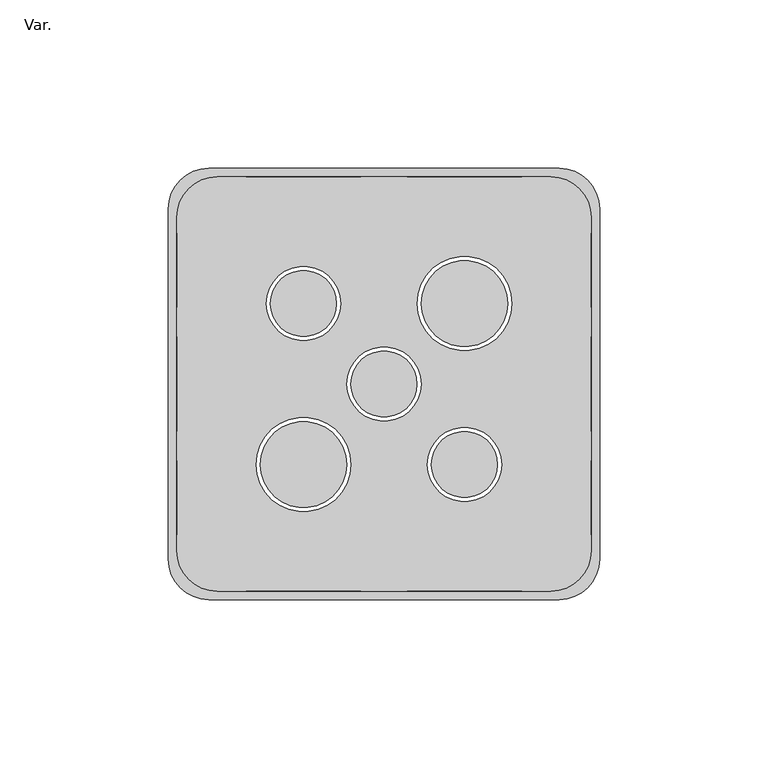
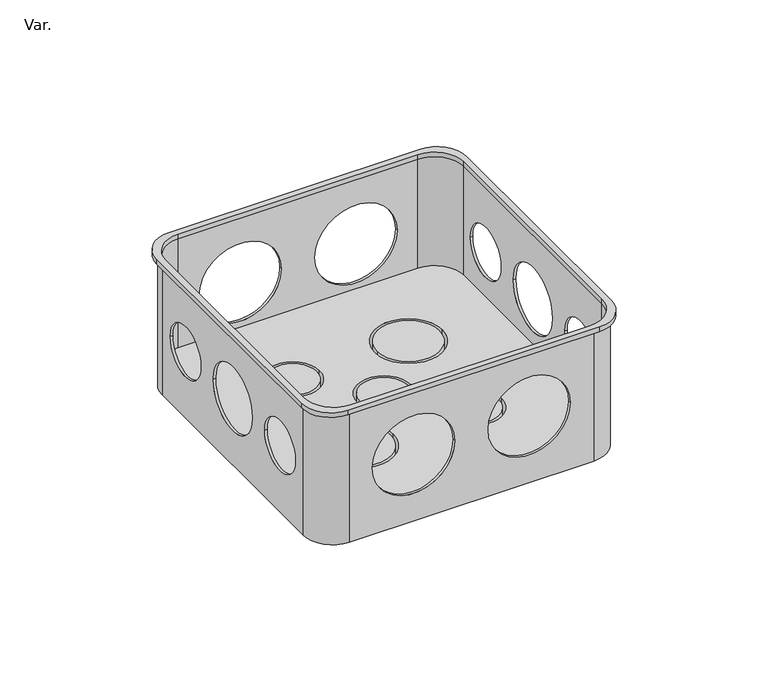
"""IFC4 building model written with IfcOpenShell, lengths in millimetres: cable carrier fitting geometry, PlastigamaWavin_Unionesdetubo_ConduitZNoUsarCaja5x5 : Var.."""

from ifc_helpers import new_model, si_unit, point, frame, frame_2d, origin, place, context, project, spatial, polyline, circle_curve, trimmed, segment, composite_curve, outline, extrude, source, transform, mapped, element, save
from ifc_brep_helpers import plane_surface, cylinder_surface, revolved_surface, advanced_brep


def var_d9d88811(model_context):
    return source(origin(), model_context, "Body", "SolidModel", [
        extrude(outline(composite_curve([segment(polyline([(-64.0, -52.0), (-64.0, 52.0)]), True, "CONTINUOUS"), segment(trimmed(circle_curve(frame_2d((-52.0, 52.0)), 12.0), [point((-64.0, 52.0))], [point((-52.0, 64.0))], False, "CARTESIAN"), True, "CONTINUOUS"), segment(polyline([(-52.0, 64.0), (52.0, 64.0)]), True, "CONTINUOUS"), segment(trimmed(circle_curve(frame_2d((52.0, 52.0)), 12.0), [point((52.0, 64.0))], [point((64.0, 52.0))], False, "CARTESIAN"), True, "CONTINUOUS"), segment(polyline([(64.0, 52.0), (64.0, -52.0)]), True, "CONTINUOUS"), segment(trimmed(circle_curve(frame_2d((52.0, -52.0)), 12.0), [point((64.0, -52.0))], [point((52.0, -64.0))], False, "CARTESIAN"), True, "CONTINUOUS"), segment(polyline([(52.0, -64.0), (-52.0, -64.0)]), True, "CONTINUOUS"), segment(trimmed(circle_curve(frame_2d((-52.0, -52.0)), 12.0), [point((-52.0, -64.0))], [point((-64.0, -52.0))], False, "CARTESIAN"), True, "CONTINUOUS")], self_intersect=False), holes=[composite_curve([segment(trimmed(circle_curve(frame_2d((-49.5, -49.5)), 12.0), [point((-61.5, -49.5))], [point((-49.5, -61.5))], True, "CARTESIAN"), True, "CONTINUOUS"), segment(polyline([(-49.5, -61.5), (49.5, -61.5)]), True, "CONTINUOUS"), segment(trimmed(circle_curve(frame_2d((49.5, -49.5)), 12.0), [point((49.5, -61.5))], [point((61.5, -49.5))], True, "CARTESIAN"), True, "CONTINUOUS"), segment(polyline([(61.5, -49.5), (61.5, 49.5)]), True, "CONTINUOUS"), segment(trimmed(circle_curve(frame_2d((49.5, 49.5)), 12.0), [point((61.5, 49.5))], [point((49.5, 61.5))], True, "CARTESIAN"), True, "CONTINUOUS"), segment(polyline([(49.5, 61.5), (-49.5, 61.5)]), True, "CONTINUOUS"), segment(trimmed(circle_curve(frame_2d((-49.5, 49.5)), 12.0), [point((-49.5, 61.5))], [point((-61.5, 49.5))], True, "CARTESIAN"), True, "CONTINUOUS"), segment(polyline([(-61.5, 49.5), (-61.5, -49.5)]), True, "CONTINUOUS")], self_intersect=False)]), frame((0.0, 0.0, 28.5), z_axis=(0.0, 0.0, 1.0), x_axis=(1.0, 0.0, 0.0)), (0.0, 0.0, 1.0), 2.0),
        advanced_brep(
        [(-62.5, -50.5, 28.5), (-50.5, -62.5, 28.5), (50.5, -62.5, 28.5), (62.5, -50.5, 28.5), (62.5, 50.5, 28.5), (50.5, 62.5, 28.5), (-50.5, 62.5, 28.5), (-62.5, 50.5, 28.5), (-49.5, -61.5, 28.5), (-61.5, -49.5, 28.5), (-61.5, 49.5, 28.5), (-49.5, 61.5, 28.5), (49.5, 61.5, 28.5), (61.5, 49.5, 28.5), (61.5, -49.5, 28.5), (49.5, -61.5, 28.5), (-62.5, -50.5, -28.5), (-62.5, 50.5, -28.5), (-50.5, 62.5, -28.5), (50.5, 62.5, -28.5), (62.5, 50.5, -28.5), (62.5, -50.5, -28.5), (50.5, -62.5, -28.5), (-50.5, -62.5, -28.5), (-37.9, -23.9, -28.5), (-9.9, -23.9, -28.5), (12.9, -23.9, -28.5), (34.9, -23.9, -28.5), (9.9, 23.9, -28.5), (37.9, 23.9, -28.5), (-34.9, 23.9, -28.5), (-12.9, 23.9, -28.5), (-11.0, 0.0, -28.5), (11.0, 0.0, -28.5), (-6.9, -62.5, 0.5), (-40.9, -62.5, 0.5), (40.9, -62.5, 0.5), (6.9, -62.5, 0.5), (62.5, -22.8, 0.5), (62.5, -44.8, 0.5), (62.5, 14.0, 0.5), (62.5, -14.0, 0.5), (62.5, 44.8, 0.5), (62.5, 22.8, 0.5), (-40.9, 62.5, 0.5), (-6.9, 62.5, 0.5), (6.9, 62.5, 0.5), (40.9, 62.5, 0.5), (-62.5, -44.8, 0.5), (-62.5, -22.8, 0.5), (-62.5, -14.0, 0.5), (-62.5, 14.0, 0.5), (-62.5, 22.8, 0.5), (-62.5, 44.8, 0.5), (-61.5, -49.5, -19.0915141), (-49.5, -61.5, -19.0915141), (49.5, -61.5, -19.0915141), (61.5, -49.5, -19.0915141), (61.5, 49.5, -19.0915141), (49.5, 61.5, -19.0915141), (-49.5, 61.5, -19.0915141), (-61.5, 49.5, -19.0915141), (-9.9, -23.9, -19.0915141), (-37.9, -23.9, -19.0915141), (34.9, -23.9, -19.0915141), (12.9, -23.9, -19.0915141), (37.9, 23.9, -19.0915141), (9.9, 23.9, -19.0915141), (-12.9, 23.9, -19.0915141), (-34.9, 23.9, -19.0915141), (11.0, 0.0, -19.0915141), (-11.0, 0.0, -19.0915141), (-40.9, -61.5, 0.5), (-6.9, -61.5, 0.5), (6.9, -61.5, 0.5), (40.9, -61.5, 0.5), (61.5, -44.8, 0.5), (61.5, -22.8, 0.5), (61.5, -14.0, 0.5), (61.5, 14.0, 0.5), (61.5, 22.8, 0.5), (61.5, 44.8, 0.5), (-6.9, 61.5, 0.5), (-40.9, 61.5, 0.5), (40.9, 61.5, 0.5), (6.9, 61.5, 0.5), (-61.5, -22.8, 0.5), (-61.5, -44.8, 0.5), (-61.5, 14.0, 0.5), (-61.5, -14.0, 0.5), (-61.5, 44.8, 0.5), (-61.5, 22.8, 0.5)],
        [
            (0, 1, circle_curve(frame((-50.5, -50.5, 28.5), z_axis=(0.0, 0.0, 1.0), x_axis=(1.0, 0.0, 0.0)), 12.0)),
            (1, 2),
            (2, 3, circle_curve(frame((50.5, -50.5, 28.5), z_axis=(0.0, 0.0, 1.0), x_axis=(1.0, 0.0, 0.0)), 12.0)),
            (3, 4),
            (4, 5, circle_curve(frame((50.5, 50.5, 28.5), z_axis=(0.0, 0.0, 1.0), x_axis=(1.0, 0.0, 0.0)), 12.0)),
            (5, 6),
            (6, 7, circle_curve(frame((-50.5, 50.5, 28.5), z_axis=(0.0, 0.0, 1.0), x_axis=(1.0, 0.0, 0.0)), 12.0)),
            (7, 0),
            (8, 9, circle_curve(frame((-49.5, -49.5, 28.5), z_axis=(0.0, 0.0, -1.0), x_axis=(1.0, 0.0, 0.0)), 12.0)),
            (9, 10),
            (10, 11, circle_curve(frame((-49.5, 49.5, 28.5), z_axis=(0.0, 0.0, -1.0), x_axis=(1.0, 0.0, 0.0)), 12.0)),
            (11, 12),
            (12, 13, circle_curve(frame((49.5, 49.5, 28.5), z_axis=(0.0, 0.0, -1.0), x_axis=(1.0, 0.0, 0.0)), 12.0)),
            (13, 14),
            (14, 15, circle_curve(frame((49.5, -49.5, 28.5), z_axis=(0.0, 0.0, -1.0), x_axis=(1.0, 0.0, 0.0)), 12.0)),
            (15, 8),
            (16, 17),
            (17, 18, circle_curve(frame((-50.5, 50.5, -28.5), z_axis=(0.0, 0.0, -1.0), x_axis=(1.0, 0.0, 0.0)), 12.0)),
            (18, 19),
            (19, 20, circle_curve(frame((50.5, 50.5, -28.5), z_axis=(0.0, 0.0, -1.0), x_axis=(1.0, 0.0, 0.0)), 12.0)),
            (20, 21),
            (21, 22, circle_curve(frame((50.5, -50.5, -28.5), z_axis=(0.0, 0.0, -1.0), x_axis=(1.0, 0.0, 0.0)), 12.0)),
            (22, 23),
            (23, 16, circle_curve(frame((-50.5, -50.5, -28.5), z_axis=(0.0, 0.0, -1.0), x_axis=(1.0, 0.0, 0.0)), 12.0)),
            (24, 25, circle_curve(frame((-23.9, -23.9, -28.5), z_axis=(0.0, 0.0, 1.0), x_axis=(1.0, 0.0, 0.0)), 14.0)),
            (25, 24, circle_curve(frame((-23.9, -23.9, -28.5), z_axis=(0.0, 0.0, 1.0), x_axis=(1.0, 0.0, 0.0)), 14.0)),
            (26, 27, circle_curve(frame((23.9, -23.9, -28.5), z_axis=(0.0, 0.0, 1.0), x_axis=(1.0, 0.0, 0.0)), 11.0)),
            (27, 26, circle_curve(frame((23.9, -23.9, -28.5), z_axis=(0.0, 0.0, 1.0), x_axis=(1.0, 0.0, 0.0)), 11.0)),
            (28, 29, circle_curve(frame((23.9, 23.9, -28.5), z_axis=(0.0, 0.0, 1.0), x_axis=(1.0, 0.0, 0.0)), 14.0)),
            (29, 28, circle_curve(frame((23.9, 23.9, -28.5), z_axis=(0.0, 0.0, 1.0), x_axis=(1.0, 0.0, 0.0)), 14.0)),
            (30, 31, circle_curve(frame((-23.9, 23.9, -28.5), z_axis=(0.0, 0.0, 1.0), x_axis=(1.0, 0.0, 0.0)), 11.0)),
            (31, 30, circle_curve(frame((-23.9, 23.9, -28.5), z_axis=(0.0, 0.0, 1.0), x_axis=(1.0, 0.0, 0.0)), 11.0)),
            (32, 33, circle_curve(frame((0.0, 0.0, -28.5), z_axis=(0.0, 0.0, 1.0), x_axis=(1.0, 0.0, 0.0)), 11.0)),
            (33, 32, circle_curve(frame((0.0, 0.0, -28.5), z_axis=(0.0, 0.0, 1.0), x_axis=(1.0, 0.0, 0.0)), 11.0)),
            (0, 16),
            (23, 1),
            (22, 2),
            (34, 35, circle_curve(frame((-23.9, -62.5, 0.5), z_axis=(0.0, 1.0, 0.0), x_axis=(1.0, 0.0, 0.0)), 17.0)),
            (35, 34, circle_curve(frame((-23.9, -62.5, 0.5), z_axis=(0.0, 1.0, 0.0), x_axis=(1.0, 0.0, 0.0)), 17.0)),
            (36, 37, circle_curve(frame((23.9, -62.5, 0.5), z_axis=(0.0, 1.0, 0.0), x_axis=(1.0, 0.0, 0.0)), 17.0)),
            (37, 36, circle_curve(frame((23.9, -62.5, 0.5), z_axis=(0.0, 1.0, 0.0), x_axis=(1.0, 0.0, 0.0)), 17.0)),
            (21, 3),
            (20, 4),
            (38, 39, circle_curve(frame((62.5, -33.8, 0.5), z_axis=(-1.0, 0.0, 0.0), x_axis=(0.0, 1.0, 0.0)), 11.0)),
            (39, 38, circle_curve(frame((62.5, -33.8, 0.5), z_axis=(-1.0, 0.0, 0.0), x_axis=(0.0, 1.0, 0.0)), 11.0)),
            (40, 41, circle_curve(frame((62.5, 0.0, 0.5), z_axis=(-1.0, 0.0, 0.0), x_axis=(0.0, 1.0, 0.0)), 14.0)),
            (41, 40, circle_curve(frame((62.5, 0.0, 0.5), z_axis=(-1.0, 0.0, 0.0), x_axis=(0.0, 1.0, 0.0)), 14.0)),
            (42, 43, circle_curve(frame((62.5, 33.8, 0.5), z_axis=(-1.0, 0.0, 0.0), x_axis=(0.0, 1.0, 0.0)), 11.0)),
            (43, 42, circle_curve(frame((62.5, 33.8, 0.5), z_axis=(-1.0, 0.0, 0.0), x_axis=(0.0, 1.0, 0.0)), 11.0)),
            (19, 5),
            (18, 6),
            (44, 45, circle_curve(frame((-23.9, 62.5, 0.5), z_axis=(0.0, -1.0, 0.0), x_axis=(1.0, 0.0, 0.0)), 17.0)),
            (45, 44, circle_curve(frame((-23.9, 62.5, 0.5), z_axis=(0.0, -1.0, 0.0), x_axis=(1.0, 0.0, 0.0)), 17.0)),
            (46, 47, circle_curve(frame((23.9, 62.5, 0.5), z_axis=(0.0, -1.0, 0.0), x_axis=(1.0, 0.0, 0.0)), 17.0)),
            (47, 46, circle_curve(frame((23.9, 62.5, 0.5), z_axis=(0.0, -1.0, 0.0), x_axis=(1.0, 0.0, 0.0)), 17.0)),
            (17, 7),
            (48, 49, circle_curve(frame((-62.5, -33.8, 0.5), z_axis=(1.0, 0.0, 0.0), x_axis=(0.0, 1.0, 0.0)), 11.0)),
            (49, 48, circle_curve(frame((-62.5, -33.8, 0.5), z_axis=(1.0, 0.0, 0.0), x_axis=(0.0, 1.0, 0.0)), 11.0)),
            (50, 51, circle_curve(frame((-62.5, 0.0, 0.5), z_axis=(1.0, 0.0, 0.0), x_axis=(0.0, 1.0, 0.0)), 14.0)),
            (51, 50, circle_curve(frame((-62.5, 0.0, 0.5), z_axis=(1.0, 0.0, 0.0), x_axis=(0.0, 1.0, 0.0)), 14.0)),
            (52, 53, circle_curve(frame((-62.5, 33.8, 0.5), z_axis=(1.0, 0.0, 0.0), x_axis=(0.0, 1.0, 0.0)), 11.0)),
            (53, 52, circle_curve(frame((-62.5, 33.8, 0.5), z_axis=(1.0, 0.0, 0.0), x_axis=(0.0, 1.0, 0.0)), 11.0)),
            (54, 55, circle_curve(frame((-49.5, -49.5, -19.0915141), z_axis=(0.0, 0.0, 1.0), x_axis=(1.0, 0.0, 0.0)), 12.0)),
            (55, 56),
            (56, 57, circle_curve(frame((49.5, -49.5, -19.0915141), z_axis=(0.0, 0.0, 1.0), x_axis=(1.0, 0.0, 0.0)), 12.0)),
            (57, 58),
            (58, 59, circle_curve(frame((49.5, 49.5, -19.0915141), z_axis=(0.0, 0.0, 1.0), x_axis=(1.0, 0.0, 0.0)), 12.0)),
            (59, 60),
            (60, 61, circle_curve(frame((-49.5, 49.5, -19.0915141), z_axis=(0.0, 0.0, 1.0), x_axis=(1.0, 0.0, 0.0)), 12.0)),
            (61, 54),
            (62, 63, circle_curve(frame((-23.9, -23.9, -19.0915141), z_axis=(0.0, 0.0, -1.0), x_axis=(1.0, 0.0, 0.0)), 14.0)),
            (63, 62, circle_curve(frame((-23.9, -23.9, -19.0915141), z_axis=(0.0, 0.0, -1.0), x_axis=(1.0, 0.0, 0.0)), 14.0)),
            (64, 65, circle_curve(frame((23.9, -23.9, -19.0915141), z_axis=(0.0, 0.0, -1.0), x_axis=(1.0, 0.0, 0.0)), 11.0)),
            (65, 64, circle_curve(frame((23.9, -23.9, -19.0915141), z_axis=(0.0, 0.0, -1.0), x_axis=(1.0, 0.0, 0.0)), 11.0)),
            (66, 67, circle_curve(frame((23.9, 23.9, -19.0915141), z_axis=(0.0, 0.0, -1.0), x_axis=(1.0, 0.0, 0.0)), 14.0)),
            (67, 66, circle_curve(frame((23.9, 23.9, -19.0915141), z_axis=(0.0, 0.0, -1.0), x_axis=(1.0, 0.0, 0.0)), 14.0)),
            (68, 69, circle_curve(frame((-23.9, 23.9, -19.0915141), z_axis=(0.0, 0.0, -1.0), x_axis=(1.0, 0.0, 0.0)), 11.0)),
            (69, 68, circle_curve(frame((-23.9, 23.9, -19.0915141), z_axis=(0.0, 0.0, -1.0), x_axis=(1.0, 0.0, 0.0)), 11.0)),
            (70, 71, circle_curve(frame((0.0, 0.0, -19.0915141), z_axis=(0.0, 0.0, -1.0), x_axis=(1.0, 0.0, 0.0)), 11.0)),
            (71, 70, circle_curve(frame((0.0, 0.0, -19.0915141), z_axis=(0.0, 0.0, -1.0), x_axis=(1.0, 0.0, 0.0)), 11.0)),
            (54, 9),
            (8, 55),
            (15, 56),
            (72, 73, circle_curve(frame((-23.9, -61.5, 0.5), z_axis=(0.0, -1.0, 0.0), x_axis=(1.0, 0.0, 0.0)), 17.0)),
            (73, 72, circle_curve(frame((-23.9, -61.5, 0.5), z_axis=(0.0, -1.0, 0.0), x_axis=(1.0, 0.0, 0.0)), 17.0)),
            (74, 75, circle_curve(frame((23.9, -61.5, 0.5), z_axis=(0.0, -1.0, 0.0), x_axis=(1.0, 0.0, 0.0)), 17.0)),
            (75, 74, circle_curve(frame((23.9, -61.5, 0.5), z_axis=(0.0, -1.0, 0.0), x_axis=(1.0, 0.0, 0.0)), 17.0)),
            (14, 57),
            (13, 58),
            (76, 77, circle_curve(frame((61.5, -33.8, 0.5), z_axis=(1.0, 0.0, 0.0), x_axis=(0.0, 1.0, 0.0)), 11.0)),
            (77, 76, circle_curve(frame((61.5, -33.8, 0.5), z_axis=(1.0, 0.0, 0.0), x_axis=(0.0, 1.0, 0.0)), 11.0)),
            (78, 79, circle_curve(frame((61.5, 0.0, 0.5), z_axis=(1.0, 0.0, 0.0), x_axis=(0.0, 1.0, 0.0)), 14.0)),
            (79, 78, circle_curve(frame((61.5, 0.0, 0.5), z_axis=(1.0, 0.0, 0.0), x_axis=(0.0, 1.0, 0.0)), 14.0)),
            (80, 81, circle_curve(frame((61.5, 33.8, 0.5), z_axis=(1.0, 0.0, 0.0), x_axis=(0.0, 1.0, 0.0)), 11.0)),
            (81, 80, circle_curve(frame((61.5, 33.8, 0.5), z_axis=(1.0, 0.0, 0.0), x_axis=(0.0, 1.0, 0.0)), 11.0)),
            (12, 59),
            (11, 60),
            (82, 83, circle_curve(frame((-23.9, 61.5, 0.5), z_axis=(0.0, 1.0, 0.0), x_axis=(1.0, 0.0, 0.0)), 17.0)),
            (83, 82, circle_curve(frame((-23.9, 61.5, 0.5), z_axis=(0.0, 1.0, 0.0), x_axis=(1.0, 0.0, 0.0)), 17.0)),
            (84, 85, circle_curve(frame((23.9, 61.5, 0.5), z_axis=(0.0, 1.0, 0.0), x_axis=(1.0, 0.0, 0.0)), 17.0)),
            (85, 84, circle_curve(frame((23.9, 61.5, 0.5), z_axis=(0.0, 1.0, 0.0), x_axis=(1.0, 0.0, 0.0)), 17.0)),
            (10, 61),
            (86, 87, circle_curve(frame((-61.5, -33.8, 0.5), z_axis=(-1.0, 0.0, 0.0), x_axis=(0.0, 1.0, 0.0)), 11.0)),
            (87, 86, circle_curve(frame((-61.5, -33.8, 0.5), z_axis=(-1.0, 0.0, 0.0), x_axis=(0.0, 1.0, 0.0)), 11.0)),
            (88, 89, circle_curve(frame((-61.5, 0.0, 0.5), z_axis=(-1.0, 0.0, 0.0), x_axis=(0.0, 1.0, 0.0)), 14.0)),
            (89, 88, circle_curve(frame((-61.5, 0.0, 0.5), z_axis=(-1.0, 0.0, 0.0), x_axis=(0.0, 1.0, 0.0)), 14.0)),
            (90, 91, circle_curve(frame((-61.5, 33.8, 0.5), z_axis=(-1.0, 0.0, 0.0), x_axis=(0.0, 1.0, 0.0)), 11.0)),
            (91, 90, circle_curve(frame((-61.5, 33.8, 0.5), z_axis=(-1.0, 0.0, 0.0), x_axis=(0.0, 1.0, 0.0)), 11.0)),
            (72, 35),
            (34, 73),
            (44, 83),
            (82, 45),
            (74, 37),
            (36, 75),
            (46, 85),
            (84, 47),
            (76, 39),
            (38, 77),
            (48, 87),
            (86, 49),
            (78, 41),
            (40, 79),
            (50, 89),
            (88, 51),
            (80, 43),
            (42, 81),
            (52, 91),
            (90, 53),
            (24, 63),
            (62, 25),
            (26, 65),
            (64, 27),
            (28, 67),
            (66, 29),
            (30, 69),
            (68, 31),
            (32, 71),
            (70, 33),
        ],
        [
            plane_surface(frame((-38.5, -50.5, 28.5), z_axis=(0.0, 0.0, 1.0), x_axis=(0.0, 1.0, 0.0))),
            plane_surface(frame((-38.5, -50.5, -28.5), z_axis=(0.0, 0.0, -1.0), x_axis=(0.0, -1.0, 0.0))),
            cylinder_surface(frame((-50.5, -50.5, -28.5), z_axis=(0.0, 0.0, 1.0), x_axis=(1.0, 0.0, 0.0)), 12.0),
            plane_surface(frame((-50.5, -62.5, 28.5), z_axis=(0.0, -1.0, 0.0), x_axis=(0.0, 0.0, -1.0))),
            cylinder_surface(frame((50.5, -50.5, -28.5), z_axis=(0.0, 0.0, 1.0), x_axis=(1.0, 0.0, 0.0)), 12.0),
            plane_surface(frame((62.5, -50.5, 28.5), z_axis=(1.0, 0.0, 0.0), x_axis=(0.0, 0.0, -1.0))),
            cylinder_surface(frame((50.5, 50.5, -28.5), z_axis=(0.0, 0.0, 1.0), x_axis=(1.0, 0.0, 0.0)), 12.0),
            plane_surface(frame((50.5, 62.5, 28.5), z_axis=(0.0, 1.0, 0.0), x_axis=(0.0, 0.0, -1.0))),
            cylinder_surface(frame((-50.5, 50.5, -28.5), z_axis=(0.0, 0.0, 1.0), x_axis=(1.0, 0.0, 0.0)), 12.0),
            plane_surface(frame((-62.5, 50.5, 28.5), z_axis=(-1.0, 0.0, 0.0), x_axis=(0.0, 0.0, -1.0))),
            plane_surface(frame((-37.5, -49.5, -19.0915141), z_axis=(0.0, 0.0, 1.0), x_axis=(0.0, -1.0, 0.0))),
            revolved_surface(polyline([(-37.5, -49.5, 28.499999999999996), (-37.5, -49.5, -19.0915141)]), (-49.5, -49.5, -19.0915141), (0.0, 0.0, 1.0)),
            plane_surface(frame((-49.5, -61.5, 30.5), z_axis=(0.0, 1.0, 0.0), x_axis=(0.0, 0.0, -1.0))),
            revolved_surface(polyline([(61.5, -49.5, 28.499999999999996), (61.5, -49.5, -19.0915141)]), (49.5, -49.5, -19.0915141), (0.0, 0.0, 1.0)),
            plane_surface(frame((61.5, -49.5, 30.5), z_axis=(-1.0, 0.0, 0.0), x_axis=(0.0, 0.0, -1.0))),
            revolved_surface(polyline([(61.5, 49.5, 28.499999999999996), (61.5, 49.5, -19.0915141)]), (49.5, 49.5, -19.0915141), (0.0, 0.0, 1.0)),
            plane_surface(frame((49.5, 61.5, 30.5), z_axis=(0.0, -1.0, 0.0), x_axis=(0.0, 0.0, -1.0))),
            revolved_surface(polyline([(-37.5, 49.5, 28.499999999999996), (-37.5, 49.5, -19.0915141)]), (-49.5, 49.5, -19.0915141), (0.0, 0.0, 1.0)),
            plane_surface(frame((-61.5, 49.5, 30.5), z_axis=(1.0, 0.0, 0.0), x_axis=(0.0, 0.0, -1.0))),
            revolved_surface(polyline([(-6.899999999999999, -62.5, 0.5), (-6.899999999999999, -61.5, 0.5)]), (-23.9, 62.5, 0.5), (0.0, -1.0, 0.0)),
            revolved_surface(polyline([(-6.899999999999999, 61.5, 0.5), (-6.899999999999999, 62.5, 0.5)]), (-23.9, 62.5, 0.5), (0.0, -1.0, 0.0)),
            revolved_surface(polyline([(40.9, -62.5, 0.5), (40.9, -61.5, 0.5)]), (23.9, 0.0, 0.5), (0.0, -1.0, 0.0)),
            revolved_surface(polyline([(40.9, 61.5, 0.5), (40.9, 62.5, 0.5)]), (23.9, 0.0, 0.5), (0.0, -1.0, 0.0)),
            revolved_surface(polyline([(62.5, -22.799999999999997, 0.5), (61.5, -22.799999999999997, 0.5)]), (-62.5, -33.8, 0.5), (1.0, 0.0, 0.0)),
            revolved_surface(polyline([(-61.5, -22.799999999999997, 0.5), (-62.5, -22.799999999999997, 0.5)]), (-62.5, -33.8, 0.5), (1.0, 0.0, 0.0)),
            revolved_surface(polyline([(62.5, 14.0, 0.5), (61.5, 14.0, 0.5)]), (0.0, 0.0, 0.5), (1.0, 0.0, 0.0)),
            revolved_surface(polyline([(-61.5, 14.0, 0.5), (-62.5, 14.0, 0.5)]), (0.0, 0.0, 0.5), (1.0, 0.0, 0.0)),
            revolved_surface(polyline([(62.5, 44.8, 0.5), (61.5, 44.8, 0.5)]), (0.0, 33.8, 0.5), (1.0, 0.0, 0.0)),
            revolved_surface(polyline([(-61.5, 44.8, 0.5), (-62.5, 44.8, 0.5)]), (0.0, 33.8, 0.5), (1.0, 0.0, 0.0)),
            revolved_surface(polyline([(-9.899999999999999, -23.9, -19.0915141), (-9.899999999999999, -23.9, -28.5)]), (-23.9, -23.9, 0.0), (0.0, 0.0, 1.0)),
            revolved_surface(polyline([(34.9, -23.9, -19.0915141), (34.9, -23.9, -28.5)]), (23.9, -23.9, 0.0), (0.0, 0.0, 1.0)),
            revolved_surface(polyline([(37.9, 23.9, -19.0915141), (37.9, 23.9, -28.5)]), (23.9, 23.9, 0.0), (0.0, 0.0, 1.0)),
            revolved_surface(polyline([(-12.899999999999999, 23.9, -19.0915141), (-12.899999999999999, 23.9, -28.5)]), (-23.9, 23.9, 0.0), (0.0, 0.0, 1.0)),
            revolved_surface(polyline([(11.0, 0.0, -19.0915141), (11.0, 0.0, -28.5)]), (0.0, 0.0, 0.0), (0.0, 0.0, 1.0)),
        ],
        [
            (0, [[1, 2, 3, 4, 5, 6, 7, 8], [9, 10, 11, 12, 13, 14, 15, 16]]),
            (1, [[17, 18, 19, 20, 21, 22, 23, 24], [25, 26], [27, 28], [29, 30], [31, 32], [33, 34]]),
            (2, [[-1, 35, -24, 36]]),
            (3, [[-2, -36, -23, 37], [38, 39], [40, 41]]),
            (4, [[-3, -37, -22, 42]]),
            (5, [[-4, -42, -21, 43], [44, 45], [46, 47], [48, 49]]),
            (6, [[-5, -43, -20, 50]]),
            (7, [[-6, -50, -19, 51], [52, 53], [54, 55]]),
            (8, [[-7, -51, -18, 56]]),
            (9, [[-8, -56, -17, -35], [57, 58], [59, 60], [61, 62]]),
            (10, [[63, 64, 65, 66, 67, 68, 69, 70], [71, 72], [73, 74], [75, 76], [77, 78], [79, 80]]),
            (11, [[-63, 81, -9, 82]]),
            (12, [[-64, -82, -16, 83], [84, 85], [86, 87]]),
            (13, [[-65, -83, -15, 88]]),
            (14, [[-66, -88, -14, 89], [90, 91], [92, 93], [94, 95]]),
            (15, [[-67, -89, -13, 96]]),
            (16, [[-68, -96, -12, 97], [98, 99], [100, 101]]),
            (17, [[-69, -97, -11, 102]]),
            (18, [[-70, -102, -10, -81], [103, 104], [105, 106], [107, 108]]),
            (19, [[109, -38, 110, -84]]),
            (20, [[111, -98, 112, -52]]),
            (19, [[-109, -85, -110, -39]]),
            (20, [[-111, -53, -112, -99]]),
            (21, [[113, -40, 114, -86]]),
            (22, [[115, -100, 116, -54]]),
            (21, [[-113, -87, -114, -41]]),
            (22, [[-115, -55, -116, -101]]),
            (23, [[117, -44, 118, -90]]),
            (24, [[119, -103, 120, -57]]),
            (23, [[-117, -91, -118, -45]]),
            (24, [[-119, -58, -120, -104]]),
            (25, [[121, -46, 122, -92]]),
            (26, [[123, -105, 124, -59]]),
            (25, [[-121, -93, -122, -47]]),
            (26, [[-123, -60, -124, -106]]),
            (27, [[125, -48, 126, -94]]),
            (28, [[127, -107, 128, -61]]),
            (27, [[-125, -95, -126, -49]]),
            (28, [[-127, -62, -128, -108]]),
            (29, [[129, -71, 130, -25]]),
            (29, [[-129, -26, -130, -72]]),
            (30, [[131, -73, 132, -27]]),
            (30, [[-131, -28, -132, -74]]),
            (31, [[133, -75, 134, -29]]),
            (31, [[-133, -30, -134, -76]]),
            (32, [[135, -77, 136, -31]]),
            (32, [[-135, -32, -136, -78]]),
            (33, [[137, -79, 138, -33]]),
            (33, [[-137, -34, -138, -80]]),
        ],
    ),
        advanced_brep(
        [(11.1, 23.9, -28.5), (36.7, 23.9, -28.5), (36.7, 23.9, -19.0915141), (11.1, 23.9, -19.0915141)],
        [
            (0, 1, circle_curve(frame((23.9, 23.9, -28.5), z_axis=(0.0, 0.0, -1.0), x_axis=(1.0, 0.0, 0.0)), 12.8)),
            (1, 0, circle_curve(frame((23.9, 23.9, -28.5), z_axis=(0.0, 0.0, -1.0), x_axis=(1.0, 0.0, 0.0)), 12.8)),
            (2, 3, circle_curve(frame((23.9, 23.9, -19.0915141), z_axis=(0.0, 0.0, 1.0), x_axis=(1.0, 0.0, 0.0)), 12.8)),
            (3, 2, circle_curve(frame((23.9, 23.9, -19.0915141), z_axis=(0.0, 0.0, 1.0), x_axis=(1.0, 0.0, 0.0)), 12.8)),
            (0, 3),
            (2, 1),
        ],
        [
            plane_surface(frame((-38.5, -50.5, -28.5), z_axis=(0.0, 0.0, -1.0), x_axis=(0.0, -1.0, 0.0))),
            plane_surface(frame((-37.5, -49.5, -19.0915141), z_axis=(0.0, 0.0, 1.0), x_axis=(0.0, -1.0, 0.0))),
            cylinder_surface(frame((23.9, 23.9, -28.5), z_axis=(0.0, 0.0, -1.0), x_axis=(1.0, 0.0, 0.0)), 12.8),
        ],
        [
            (0, [[1, 2]]),
            (1, [[3, 4]]),
            (2, [[5, -3, 6, -1]]),
            (2, [[-5, -2, -6, -4]]),
        ],
    ),
        advanced_brep(
        [(14.1, -23.9, -28.5), (33.7, -23.9, -28.5), (33.7, -23.9, -19.0915141), (14.1, -23.9, -19.0915141)],
        [
            (0, 1, circle_curve(frame((23.9, -23.9, -28.5), z_axis=(0.0, 0.0, -1.0), x_axis=(1.0, 0.0, 0.0)), 9.8)),
            (1, 0, circle_curve(frame((23.9, -23.9, -28.5), z_axis=(0.0, 0.0, -1.0), x_axis=(1.0, 0.0, 0.0)), 9.8)),
            (2, 3, circle_curve(frame((23.9, -23.9, -19.0915141), z_axis=(0.0, 0.0, 1.0), x_axis=(1.0, 0.0, 0.0)), 9.8)),
            (3, 2, circle_curve(frame((23.9, -23.9, -19.0915141), z_axis=(0.0, 0.0, 1.0), x_axis=(1.0, 0.0, 0.0)), 9.8)),
            (0, 3),
            (2, 1),
        ],
        [
            plane_surface(frame((-38.5, -50.5, -28.5), z_axis=(0.0, 0.0, -1.0), x_axis=(0.0, -1.0, 0.0))),
            plane_surface(frame((-37.5, -49.5, -19.0915141), z_axis=(0.0, 0.0, 1.0), x_axis=(0.0, -1.0, 0.0))),
            cylinder_surface(frame((23.9, -23.9, 0.0), z_axis=(0.0, 0.0, -1.0), x_axis=(1.0, 0.0, 0.0)), 9.8),
        ],
        [
            (0, [[1, 2]]),
            (1, [[3, 4]]),
            (2, [[5, -3, 6, -1]]),
            (2, [[-5, -2, -6, -4]]),
        ],
    ),
        advanced_brep(
        [(-36.7, -23.9, -28.5), (-11.1, -23.9, -28.5), (-11.1, -23.9, -19.0915141), (-36.7, -23.9, -19.0915141)],
        [
            (0, 1, circle_curve(frame((-23.9, -23.9, -28.5), z_axis=(0.0, 0.0, -1.0), x_axis=(1.0, 0.0, 0.0)), 12.8)),
            (1, 0, circle_curve(frame((-23.9, -23.9, -28.5), z_axis=(0.0, 0.0, -1.0), x_axis=(1.0, 0.0, 0.0)), 12.8)),
            (2, 3, circle_curve(frame((-23.9, -23.9, -19.0915141), z_axis=(0.0, 0.0, 1.0), x_axis=(1.0, 0.0, 0.0)), 12.8)),
            (3, 2, circle_curve(frame((-23.9, -23.9, -19.0915141), z_axis=(0.0, 0.0, 1.0), x_axis=(1.0, 0.0, 0.0)), 12.8)),
            (0, 3),
            (2, 1),
        ],
        [
            plane_surface(frame((-38.5, -50.5, -28.5), z_axis=(0.0, 0.0, -1.0), x_axis=(0.0, -1.0, 0.0))),
            plane_surface(frame((-37.5, -49.5, -19.0915141), z_axis=(0.0, 0.0, 1.0), x_axis=(0.0, -1.0, 0.0))),
            cylinder_surface(frame((-23.9, -23.9, 0.0), z_axis=(0.0, 0.0, -1.0), x_axis=(1.0, 0.0, 0.0)), 12.8),
        ],
        [
            (0, [[1, 2]]),
            (1, [[3, 4]]),
            (2, [[5, -3, 6, -1]]),
            (2, [[-5, -2, -6, -4]]),
        ],
    ),
        advanced_brep(
        [(-33.7, 23.9, -28.5), (-14.1, 23.9, -28.5), (-14.1, 23.9, -19.0915141), (-33.7, 23.9, -19.0915141)],
        [
            (0, 1, circle_curve(frame((-23.9, 23.9, -28.5), z_axis=(0.0, 0.0, -1.0), x_axis=(1.0, 0.0, 0.0)), 9.8)),
            (1, 0, circle_curve(frame((-23.9, 23.9, -28.5), z_axis=(0.0, 0.0, -1.0), x_axis=(1.0, 0.0, 0.0)), 9.8)),
            (2, 3, circle_curve(frame((-23.9, 23.9, -19.0915141), z_axis=(0.0, 0.0, 1.0), x_axis=(1.0, 0.0, 0.0)), 9.8)),
            (3, 2, circle_curve(frame((-23.9, 23.9, -19.0915141), z_axis=(0.0, 0.0, 1.0), x_axis=(1.0, 0.0, 0.0)), 9.8)),
            (0, 3),
            (2, 1),
        ],
        [
            plane_surface(frame((-38.5, -50.5, -28.5), z_axis=(0.0, 0.0, -1.0), x_axis=(0.0, -1.0, 0.0))),
            plane_surface(frame((-37.5, -49.5, -19.0915141), z_axis=(0.0, 0.0, 1.0), x_axis=(0.0, -1.0, 0.0))),
            cylinder_surface(frame((-23.9, 23.9, 0.0), z_axis=(0.0, 0.0, -1.0), x_axis=(1.0, 0.0, 0.0)), 9.8),
        ],
        [
            (0, [[1, 2]]),
            (1, [[3, 4]]),
            (2, [[5, -3, 6, -1]]),
            (2, [[-5, -2, -6, -4]]),
        ],
    ),
        advanced_brep(
        [(-9.8, 0.0, -28.5), (9.8, 0.0, -28.5), (9.8, 0.0, -19.0915141), (-9.8, 0.0, -19.0915141)],
        [
            (0, 1, circle_curve(frame((0.0, 0.0, -28.5), z_axis=(0.0, 0.0, -1.0), x_axis=(1.0, 0.0, 0.0)), 9.8)),
            (1, 0, circle_curve(frame((0.0, 0.0, -28.5), z_axis=(0.0, 0.0, -1.0), x_axis=(1.0, 0.0, 0.0)), 9.8)),
            (2, 3, circle_curve(frame((0.0, 0.0, -19.0915141), z_axis=(0.0, 0.0, 1.0), x_axis=(1.0, 0.0, 0.0)), 9.8)),
            (3, 2, circle_curve(frame((0.0, 0.0, -19.0915141), z_axis=(0.0, 0.0, 1.0), x_axis=(1.0, 0.0, 0.0)), 9.8)),
            (0, 3),
            (2, 1),
        ],
        [
            plane_surface(frame((-38.5, -50.5, -28.5), z_axis=(0.0, 0.0, -1.0), x_axis=(0.0, -1.0, 0.0))),
            plane_surface(frame((-37.5, -49.5, -19.0915141), z_axis=(0.0, 0.0, 1.0), x_axis=(0.0, -1.0, 0.0))),
            cylinder_surface(frame((0.0, 0.0, 0.0), z_axis=(0.0, 0.0, -1.0), x_axis=(1.0, 0.0, 0.0)), 9.8),
        ],
        [
            (0, [[1, 2]]),
            (1, [[3, 4]]),
            (2, [[5, -3, 6, -1]]),
            (2, [[-5, -2, -6, -4]]),
        ],
    ),
    ])


if __name__ == "__main__":
    model = new_model("IFC4")
    model_context = context("Model", 3, world=origin())
    ifc_project = project(units=[si_unit("LENGTHUNIT", "METRE", prefix="MILLI")], contexts=[model_context])
    site = spatial("IfcSite", under=ifc_project)
    building = spatial("IfcBuilding", under=site)
    placement = place(None, origin())
    var_shape = var_d9d88811(model_context)
    element("IfcCableCarrierFitting", 1, ObjectType="PlastigamaWavin_Unionesdetubo_ConduitZNoUsarCaja5x5 : Var.", at=placement, inside=building, context=model_context, shape_type="MappedRepresentation", body=[
        mapped(var_shape, transform((0.0, 0.0, 0.0), x_axis=(1.0, 0.0, 0.0), y_axis=(0.0, 1.0, 0.0), z_axis=(0.0, 0.0, 1.0))),
    ])
    save(model, "model.ifc")
